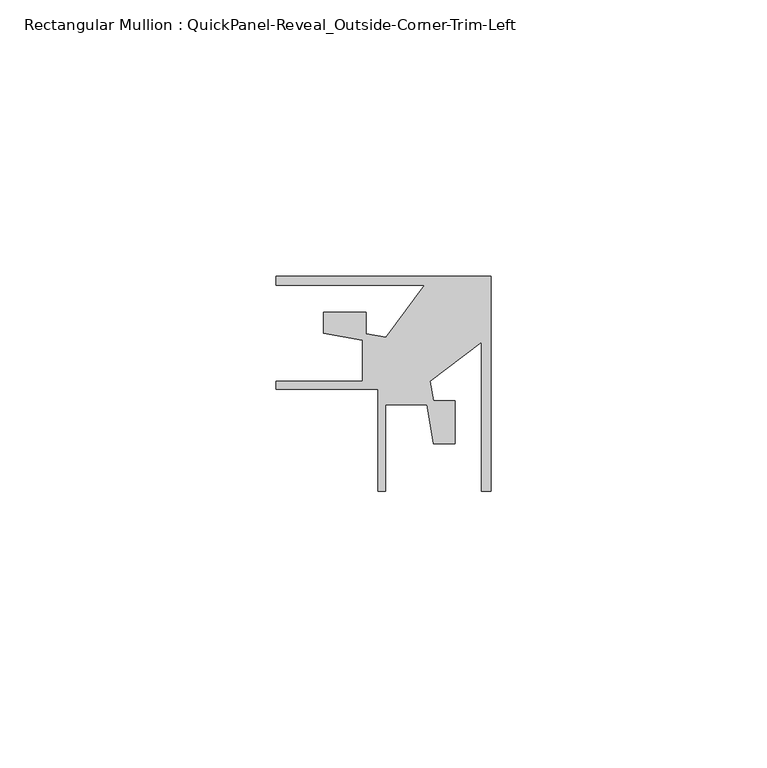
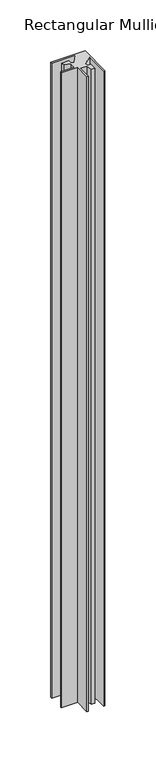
"""IFC4 building model written with IfcOpenShell, lengths in millimetres: member geometry, Rectangular Mullion : QuickPanel-Reveal_Outside-Corner-Trim-Left."""

from ifc_helpers import new_model, si_unit, frame, origin, place, context, project, spatial, polyline, outline, extrude, source, transform, mapped, element, save


def rectangular_mullion_quickpanel_reveal_outside_corner_trim_e17033c3(model_context):
    return source(origin(), model_context, "Body", "SweptSolid", [
        extrude(outline(polyline([(-11.9918292, 10.4985348), (-38.9299221, 10.4985348), (-38.9299221, 12.1803727), (0.0, 12.1803727), (0.0, -26.7495494), (-1.6818379, -26.7495494), (-1.6818379, 0.1885435), (-11.0274882, -6.8539091), (-10.4155262, -10.423615), (-6.5310693, -10.423615), (-6.5310693, -18.168388), (-10.3763482, -18.168388), (-11.5910049, -11.083034), (-19.0600811, -11.083034), (-19.0600811, -26.7495494), (-20.4601097, -26.7495494), (-20.4601097, -8.279737), (-38.9299221, -8.279737), (-38.9299221, -6.8797084), (-23.2634067, -6.8797084), (-23.2634067, 0.5893678), (-30.3487608, 1.8040245), (-30.3487608, 5.6493034), (-22.6039877, 5.6493034), (-22.6039877, 1.7648465), (-19.0342818, 1.1528845), (-11.9918292, 10.4985348)])), frame((0.0, 0.0, -762.0), z_axis=(0.0, 0.0, 1.0), x_axis=(1.0, 0.0, 0.0)), (0.0, 0.0, 1.0), 762.0),
    ])


if __name__ == "__main__":
    model = new_model("IFC4")
    model_context = context("Model", 3, world=origin())
    ifc_project = project(units=[si_unit("LENGTHUNIT", "METRE", prefix="MILLI")], contexts=[model_context])
    site = spatial("IfcSite", under=ifc_project)
    building = spatial("IfcBuilding", under=site)
    placement = place(None, origin())
    rectangular_mullion_quickpanel_reveal_outside_corner_trim_shape = rectangular_mullion_quickpanel_reveal_outside_corner_trim_e17033c3(model_context)
    element("IfcMember", 1, ObjectType="Rectangular Mullion : QuickPanel-Reveal_Outside-Corner-Trim-Left", at=placement, inside=building, context=model_context, shape_type="MappedRepresentation", body=[
        mapped(rectangular_mullion_quickpanel_reveal_outside_corner_trim_shape, transform((0.0, 0.0, 0.0), x_axis=(1.0, 0.0, 0.0), y_axis=(0.0, 1.0, 0.0), z_axis=(0.0, 0.0, 1.0))),
    ])
    save(model, "model.ifc")
